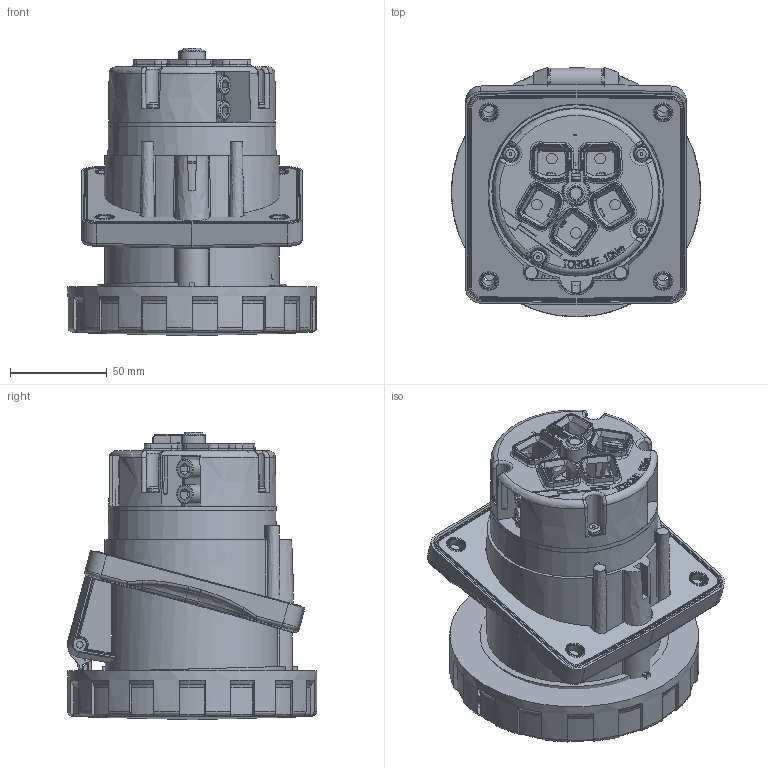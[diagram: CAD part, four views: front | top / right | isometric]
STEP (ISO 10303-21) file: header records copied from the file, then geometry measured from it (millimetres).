
FILE_DESCRIPTION(/* description */ (''),/* implementation_level */ '2;1');
FILE_NAME(/* name */ '4000011.stp',/* time_stamp */ '2017-05-09T19:08:49+02:00',/* author */ (''),/* organization */ (''),/* preprocessor_version */ 'ST-DEVELOPER v16',/* originating_system */ 'SIEMENS PLM Software NX 11.0',/* authorisation */ '');
FILE_SCHEMA (('AUTOMOTIVE_DESIGN { 1 0 10303 214 3 1 1 1 }'));
Products named in the file (1): 4000011_LINKEDEXT_jt
Bounding box: 128.5 x 128.73 x 148.2 mm (x, y, z)
Surface area: 154145.8 mm2 (no closed solid volume)
Topology: 0 solids, 99 shells, 908 faces, 3765 edges, 2848 vertices
Faces by surface type: plane 335, cylinder 175, bspline 151, cone 134, torus 103, revolution 9, sphere 1
Full cylindrical faces by diameter (mm): 3.5 x1, 4 x1, 4.5 x1, 7.7 x4, 8 x1, 10 x10, 114 x1, 117.8 x1, 128.5 x1
Entity records: 54482 total; most frequent: CARTESIAN_POINT 20755, DIRECTION 5590, ORIENTED_EDGE 5302, EDGE_CURVE 3674, VERTEX_POINT 2833, AXIS2_PLACEMENT_3D 2000, LINE 1581, VECTOR 1581
